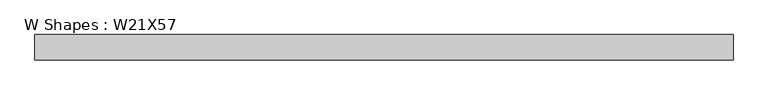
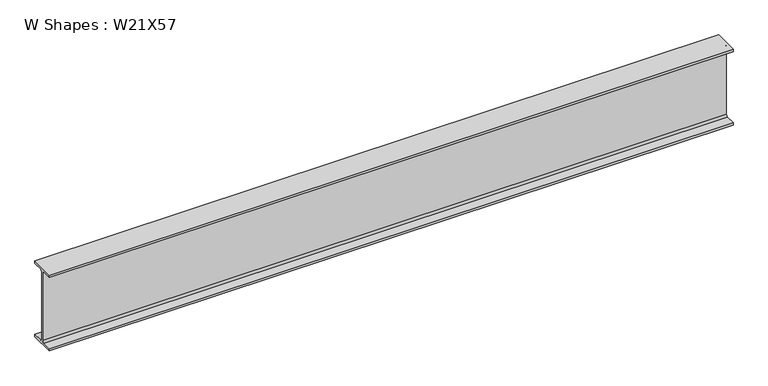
"""IFC4 building model written with IfcOpenShell, lengths in millimetres: beam geometry, W Shapes : W21X57."""

from ifc_helpers import new_model, si_unit, point, frame, frame_2d, origin, place, context, project, spatial, polyline, circle_curve, trimmed, segment, composite_curve, outline, extrude, source, transform, mapped, element, save


def w_shapes_w21x57_5e1e39fb(model_context):
    return source(origin(), model_context, "Body", "SweptSolid", [
        extrude(outline(composite_curve([segment(polyline([(83.312, -251.46), (83.312, -267.97), (-83.312, -267.97), (-83.312, -251.46), (-17.8435, -251.46)]), True, "CONTINUOUS"), segment(trimmed(circle_curve(frame_2d((-17.8435, -238.76)), 12.7), [point((-17.8435, -251.46))], [point((-5.1435, -238.76))], True, "CARTESIAN"), True, "CONTINUOUS"), segment(polyline([(-5.1435, -238.76), (-5.1435, 238.76)]), True, "CONTINUOUS"), segment(trimmed(circle_curve(frame_2d((-17.8435, 238.76)), 12.7), [point((-5.1435, 238.76))], [point((-17.8435, 251.46))], True, "CARTESIAN"), True, "CONTINUOUS"), segment(polyline([(-17.8435, 251.46), (-83.312, 251.46), (-83.312, 267.97), (83.312, 267.97), (83.312, 251.46), (17.8435, 251.46)]), True, "CONTINUOUS"), segment(trimmed(circle_curve(frame_2d((17.8435, 238.76)), 12.7), [point((17.8435, 251.46))], [point((5.1435, 238.76))], True, "CARTESIAN"), True, "CONTINUOUS"), segment(polyline([(5.1435, 238.76), (5.1435, -238.76)]), True, "CONTINUOUS"), segment(trimmed(circle_curve(frame_2d((17.8435, -238.76)), 12.7), [point((5.1435, -238.76))], [point((17.8435, -251.46))], True, "CARTESIAN"), True, "CONTINUOUS"), segment(polyline([(17.8435, -251.46), (83.312, -251.46)]), True, "CONTINUOUS")], self_intersect=False)), frame((-2285.359694, 0.0, 0.0), z_axis=(1.0, 0.0, 0.0), x_axis=(0.0, 1.0, 0.0)), (0.0, 0.0, 1.0), 4570.719388),
    ])


if __name__ == "__main__":
    model = new_model("IFC4")
    model_context = context("Model", 3, world=origin())
    ifc_project = project(units=[si_unit("LENGTHUNIT", "METRE", prefix="MILLI")], contexts=[model_context])
    site = spatial("IfcSite", under=ifc_project)
    building = spatial("IfcBuilding", under=site)
    placement = place(None, origin())
    w_shapes_w21x57_shape = w_shapes_w21x57_5e1e39fb(model_context)
    element("IfcBeam", 1, ObjectType="W Shapes : W21X57", at=placement, inside=building, context=model_context, shape_type="MappedRepresentation", body=[
        mapped(w_shapes_w21x57_shape, transform((0.0, 0.0, 0.0), x_axis=(1.0, 0.0, 0.0), y_axis=(0.0, 1.0, 0.0), z_axis=(0.0, 0.0, 1.0))),
    ])
    save(model, "model.ifc")
